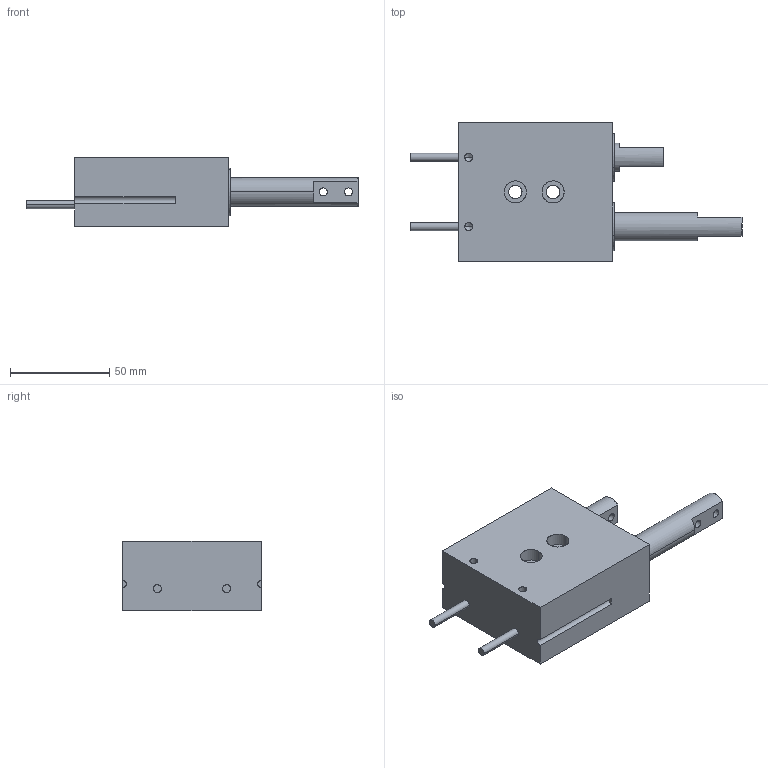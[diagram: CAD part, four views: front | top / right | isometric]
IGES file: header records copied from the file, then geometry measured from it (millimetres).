
Start section: SolidWorks IGES file using analytic representation for surfaces
Global section: file name: C:\Users\jmkuhnes\Pictures\My Transfers\AGE-3\AGE-3 in MM.IGS; native system: SolidWorks 2013; preprocessor: SolidWorks 2013; author: jmkuhnes; date: 141119.090528; units: millimetre
Bounding box: 167.36 x 69.85 x 34.92 mm (x, y, z)
Surface area: 49908.9 mm2 (no closed solid volume)
Topology: 0 solids, 0 shells, 97 faces, 2184 edges, 2176 vertices
Faces by surface type: revolution 63, bspline 34
